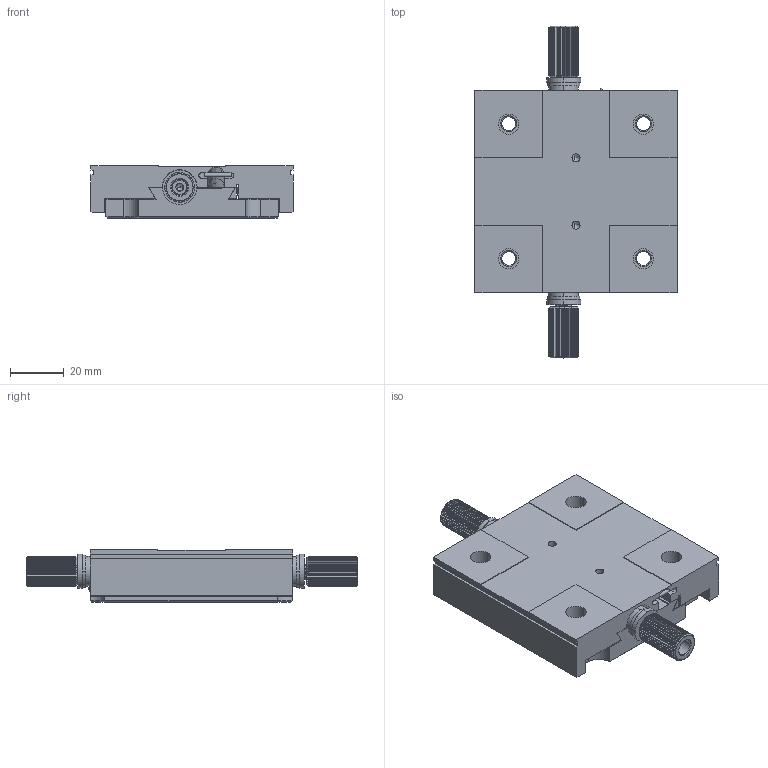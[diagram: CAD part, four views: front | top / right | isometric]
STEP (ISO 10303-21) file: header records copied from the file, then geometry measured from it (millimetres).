
FILE_DESCRIPTION((''),'2;1');
FILE_NAME('134309_DT25_IMPERIAL_ASM','2021-05-27T',('Administrator'),(''),'CREO PARAMETRIC BY PTC INC, 2015290','CREO PARAMETRIC BY PTC INC, 2015290','');
FILE_SCHEMA(('CONFIG_CONTROL_DESIGN'));
Products named in the file (14): 134304_SCREW_HOLDER; 134300_FIXED_WORLD; 134305_PLASTIC_RING; DB0194_M3_X_14__BLK__SKT_SET; DA0169_M3_X_3__BLK__SKT_SET; 134302_MOVING_WORLD_IMPERIAL; 134303_LEAD_SCREW; DF0024_M6_WASHER; DG0055_PIN_1_5_BY_10MM; DF0027-_M6_NYLON_WSH; 134306__KNOB; SPRING_STRETCH_INST; M3X10_HM; 134309_DT25_IMPERIAL_ASM
Assembly tree (22 placements, depth 2):
  134309_DT25_IMPERIAL_ASM
    134304_SCREW_HOLDER
    134300_FIXED_WORLD
    134305_PLASTIC_RING  x2
    DB0194_M3_X_14__BLK__SKT_SET  x4
    DA0169_M3_X_3__BLK__SKT_SET
    134302_MOVING_WORLD_IMPERIAL
    134303_LEAD_SCREW
    DF0024_M6_WASHER  x2
    DG0055_PIN_1_5_BY_10MM  x2
    DF0027-_M6_NYLON_WSH  x2
    134306__KNOB  x2
    SPRING_STRETCH_INST
    M3X10_HM  x2
Bounding box: 75 x 123.2 x 19.5 mm (x, y, z)
Volume: 88766.6 mm3; surface area: 46959.7 mm2
Topology: 22 solids, 22 shells, 1497 faces, 4089 edges, 2630 vertices
Faces by surface type: cylinder 637, plane 379, cone 261, bspline 210, torus 8, extrusion 2
Entity records: 76084 total; most frequent: CARTESIAN_POINT 47954, ORIENTED_EDGE 6594, DIRECTION 4554, EDGE_CURVE 3297, VERTEX_POINT 2135, AXIS2_PLACEMENT_3D 1576, VECTOR 1402, LINE 1400
